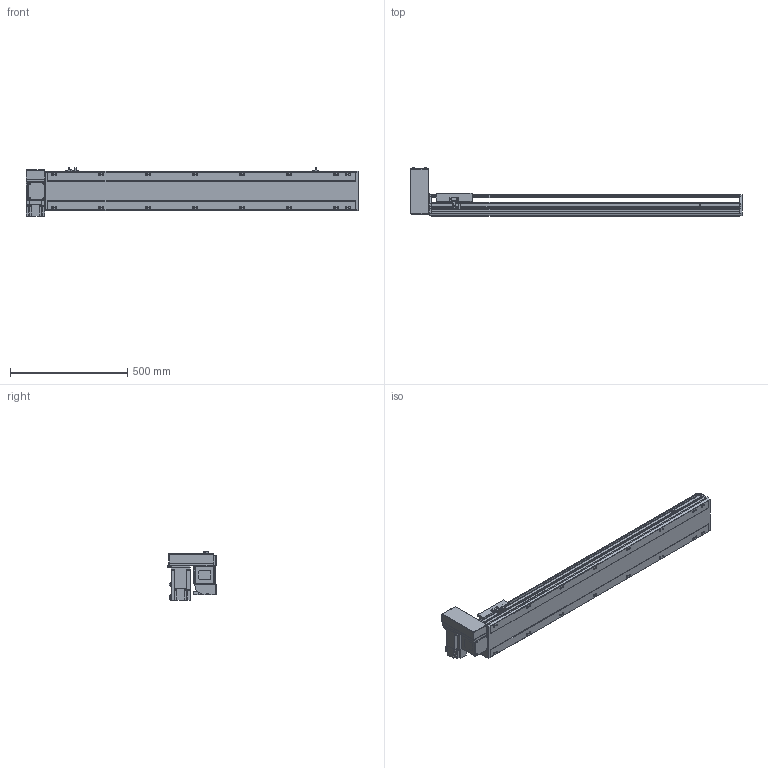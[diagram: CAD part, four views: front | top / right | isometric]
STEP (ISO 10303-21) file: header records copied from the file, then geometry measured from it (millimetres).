
FILE_DESCRIPTION( ( 'STEP AP214' ), '1' );
FILE_NAME( 'x:/temp/worker_5/temp/exporttempdir_3988_119_ouniD/format_0/PBS170-P40-S1050-RU-T75-C1-N(0).stp', '2022-06-08T05:57:03', ( 'License CC BY-ND 4.0' ), ( 'CADENAS' ), ' ', 'PARTsolutions', ' ' );
FILE_SCHEMA( ( 'AUTOMOTIVE_DESIGN { 1 0 10303 214 1 1 1 1 }' ) );
Length unit declared in the file: millimetre
Products named in the file (7): PBS170-P40-S1050-RU-T75-C1-N(0); _PBS170-S1050()_body; _PBS170T-RU_motors; _T75-p1; _PBS170_sliser; _PBS170_plant; _PBS170_sensor
Assembly tree (8 placements, depth 2):
  PBS170-P40-S1050-RU-T75-C1-N(0)
    _PBS170-S1050()_body
    _PBS170T-RU_motors
    _T75-p1
    _PBS170_sliser
    _PBS170_plant
    _PBS170_sensor  x3
Bounding box: 1413 x 206 x 205.3 mm (x, y, z)
Volume: 11343947.6 mm3; surface area: 1484227.3 mm2
Topology: 8 solids, 8 shells, 1082 faces, 2875 edges, 1874 vertices
Faces by surface type: plane 687, cylinder 339, cone 46, sphere 8, torus 2
Full cylindrical faces by diameter (mm): 3.242 x4, 4 x2, 4.4 x4, 4.5 x6, 4.917 x4, 6 x9, 6.647 x24, 7 x2, 7.5 x4, 8 x8, 8.5 x16, 10 x4, 10.5 x16, 11 x2, 30 x2, 40 x1, 70 x1
Entity records: 39740 total; most frequent: CARTESIAN_POINT 6221, DIRECTION 5300, ORIENTED_EDGE 5028, EDGE_CURVE 2514, AXIS2_PLACEMENT_3D 1837, VERTEX_POINT 1730, LINE 1626, VECTOR 1626
